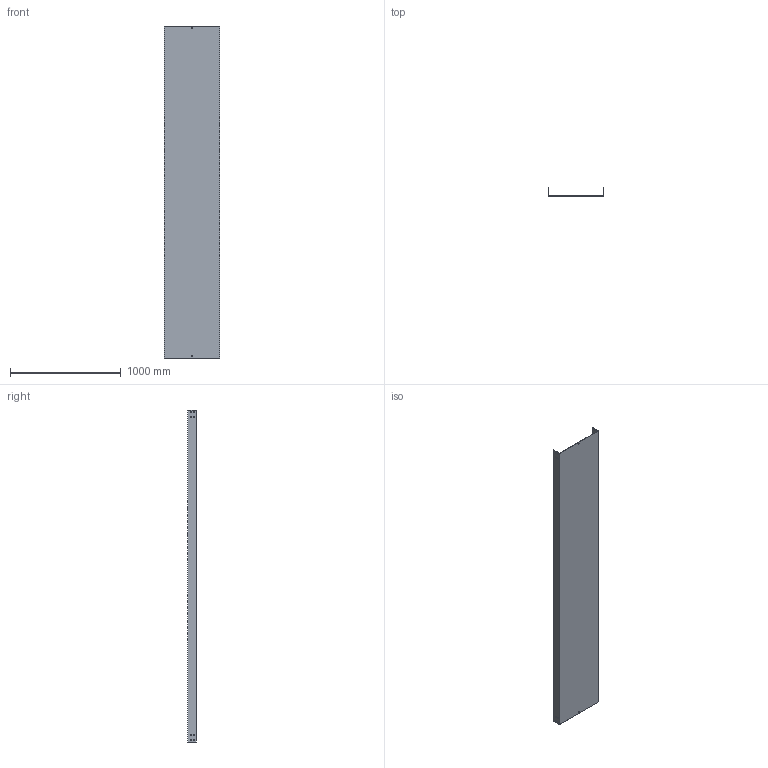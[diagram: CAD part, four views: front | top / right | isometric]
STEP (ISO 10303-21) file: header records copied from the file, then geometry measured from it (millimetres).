
FILE_DESCRIPTION (( 'STEP AP214' ), '1' );
FILE_NAME ('03B3C500.step', '2025-02-21T10:22:48', ( '' ), ( '' ), 'SwSTEP 2.0', 'SolidWorks 2023', '' );
FILE_SCHEMA (( 'AUTOMOTIVE_DESIGN' ));
Length unit declared in the file: millimetre
Products named in the file (1): 03B3C500
Bounding box: 504 x 79 x 3000 mm (x, y, z)
Volume: 6873170.5 mm3; surface area: 3955232 mm2
Topology: 1 solids, 1 shells, 82 faces, 240 edges, 160 vertices
Faces by surface type: plane 82
Entity records: 2759 total; most frequent: CARTESIAN_POINT 483, ORIENTED_EDGE 480, DIRECTION 406, EDGE_CURVE 240, LINE 240, VECTOR 240, VERTEX_POINT 160, EDGE_LOOP 118
